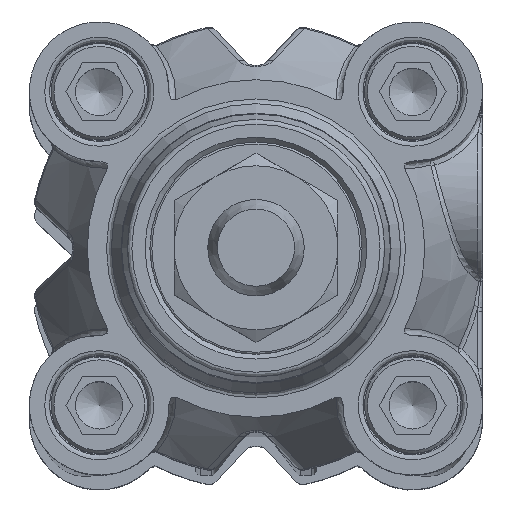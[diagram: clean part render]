
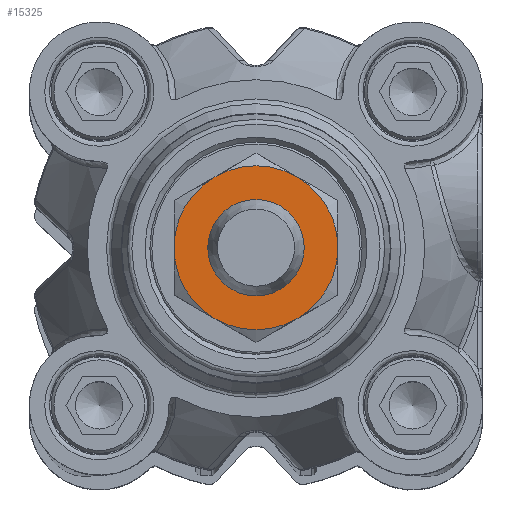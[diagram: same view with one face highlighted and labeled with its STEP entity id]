
A CAD part, top view. The second image highlights one B-rep face of the part: STEP entity #15325.
In plain terms, the highlighted planar face has unit normal (0, 0, 1) as drawn and (1, 0, 0) by its records, which use the part's own axes.
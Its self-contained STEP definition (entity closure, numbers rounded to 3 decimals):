
#4274=ORIENTED_EDGE('',*,*,#8425,.T.);
#4275=ORIENTED_EDGE('',*,*,#8417,.T.);
#4276=ORIENTED_EDGE('',*,*,#8414,.T.);
#4277=ORIENTED_EDGE('',*,*,#8413,.T.);
#4278=ORIENTED_EDGE('',*,*,#8415,.T.);
#4279=ORIENTED_EDGE('',*,*,#8416,.T.);
#4280=ORIENTED_EDGE('',*,*,#8418,.T.);
#8413=EDGE_CURVE('',#10575,#10585,#11985,.T.);
#8414=EDGE_CURVE('',#10571,#10575,#11986,.T.);
#8415=EDGE_CURVE('',#10585,#10582,#11987,.T.);
#8416=EDGE_CURVE('',#10582,#10578,#11988,.T.);
#8417=EDGE_CURVE('',#10565,#10571,#11989,.T.);
#8418=EDGE_CURVE('',#10578,#10565,#11990,.T.);
#8425=EDGE_CURVE('',#10586,#10586,#11997,.T.);
#10565=VERTEX_POINT('',#28661);
#10571=VERTEX_POINT('',#28682);
#10575=VERTEX_POINT('',#28700);
#10578=VERTEX_POINT('',#28719);
#10582=VERTEX_POINT('',#28737);
#10585=VERTEX_POINT('',#28754);
#10586=VERTEX_POINT('',#28784);
#11985=CIRCLE('',#21975,8.5);
#11986=CIRCLE('',#21977,8.5);
#11987=CIRCLE('',#21979,8.5);
#11988=CIRCLE('',#21981,8.5);
#11989=CIRCLE('',#21983,8.5);
#11990=CIRCLE('',#21985,8.5);
#11997=CIRCLE('',#21999,4.714);
#12780=EDGE_LOOP('',(#4274));
#12781=EDGE_LOOP('',(#4275,#4276,#4277,#4278,#4279,#4280));
#13889=FACE_BOUND('',#12780,.T.);
#13890=FACE_BOUND('',#12781,.T.);
#14875=PLANE('',#21998);
#15325=ADVANCED_FACE('',(#13889,#13890),#14875,.T.);
#21975=AXIS2_PLACEMENT_3D('',#28759,#24406,#24407);
#21977=AXIS2_PLACEMENT_3D('',#28761,#24410,#24411);
#21979=AXIS2_PLACEMENT_3D('',#28763,#24414,#24415);
#21981=AXIS2_PLACEMENT_3D('',#28765,#24418,#24419);
#21983=AXIS2_PLACEMENT_3D('',#28767,#24422,#24423);
#21985=AXIS2_PLACEMENT_3D('',#28769,#24426,#24427);
#21998=AXIS2_PLACEMENT_3D('',#28782,#24452,#24453);
#21999=AXIS2_PLACEMENT_3D('',#28783,#24454,#24455);
#24406=DIRECTION('',(1.,0.,0.));
#24407=DIRECTION('',(0.,1.,0.));
#24410=DIRECTION('',(1.,0.,0.));
#24411=DIRECTION('',(0.,1.,0.));
#24414=DIRECTION('',(1.,0.,0.));
#24415=DIRECTION('',(0.,1.,0.));
#24418=DIRECTION('',(1.,0.,0.));
#24419=DIRECTION('',(0.,1.,0.));
#24422=DIRECTION('',(1.,0.,0.));
#24423=DIRECTION('',(0.,1.,0.));
#24426=DIRECTION('',(1.,0.,0.));
#24427=DIRECTION('',(0.,1.,0.));
#24452=DIRECTION('',(1.,0.,0.));
#24453=DIRECTION('',(0.,0.,-1.));
#24454=DIRECTION('',(-1.,0.,0.));
#24455=DIRECTION('',(0.,-1.,0.));
#28661=CARTESIAN_POINT('',(6.,-7.361,-4.25));
#28682=CARTESIAN_POINT('',(6.,0.,-8.5));
#28700=CARTESIAN_POINT('',(6.,7.361,-4.25));
#28719=CARTESIAN_POINT('',(6.,-7.361,4.25));
#28737=CARTESIAN_POINT('',(6.,0.,8.5));
#28754=CARTESIAN_POINT('',(6.,7.361,4.25));
#28759=CARTESIAN_POINT('',(6.,0.,0.));
#28761=CARTESIAN_POINT('',(6.,0.,0.));
#28763=CARTESIAN_POINT('',(6.,0.,0.));
#28765=CARTESIAN_POINT('',(6.,0.,0.));
#28767=CARTESIAN_POINT('',(6.,0.,0.));
#28769=CARTESIAN_POINT('',(6.,0.,0.));
#28782=CARTESIAN_POINT('',(6.,0.,0.));
#28783=CARTESIAN_POINT('',(6.,0.,0.));
#28784=CARTESIAN_POINT('',(6.,-4.714,0.));
